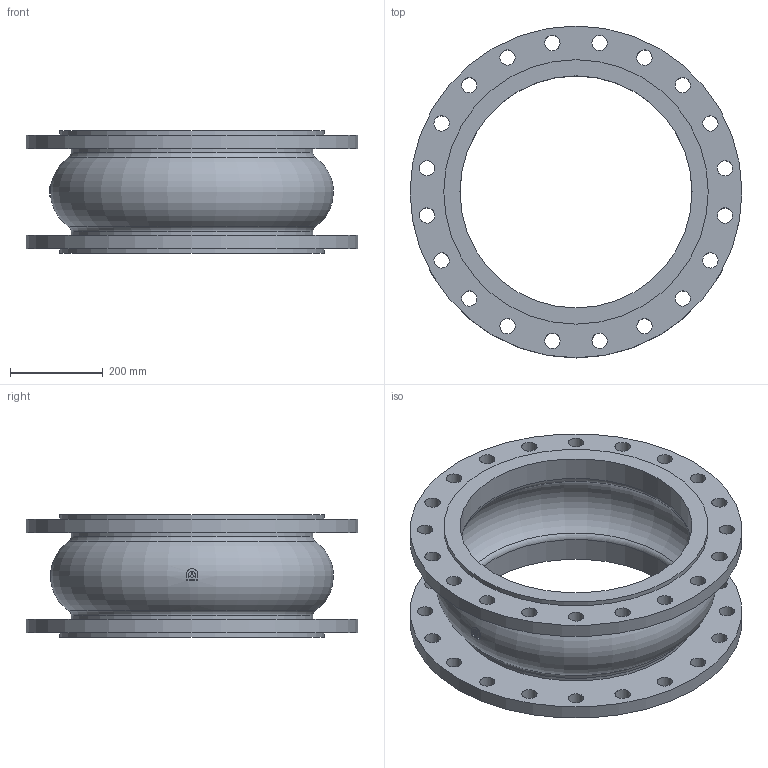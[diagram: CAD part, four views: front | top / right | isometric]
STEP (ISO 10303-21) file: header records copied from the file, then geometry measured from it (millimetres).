
FILE_DESCRIPTION(('STEP AP203'), '1');
FILE_NAME('Êîìïåíñàòîð KMS DN500 PN16', '', ('UNSPECIFIED'), ('UNSPECIFIED'), 'ASCON STEP Converter 1.6', 'ASCON Math Kernel', '');
FILE_SCHEMA(('CONFIG_CONTROL_DESIGN'));
Length unit declared in the file: millimetre
Bounding box: 715 x 715 x 265 mm (x, y, z)
Volume: 16127639.3 mm3; surface area: 1897664 mm2
Topology: 1 solids, 1 shells, 77 faces, 196 edges, 128 vertices
Faces by surface type: cylinder 55, plane 13, torus 9
Full cylindrical faces by diameter (mm): 33 x40, 500 x2, 520 x2, 570 x2, 715 x2
Entity records: 3957 total; most frequent: CARTESIAN_POINT 1432, DIRECTION 382, ORIENTED_EDGE 284, EDGE_LOOP 220, AXIS2_PLACEMENT_3D 184, EDGE_CURVE 142, VERTEX_POINT 128, FACE_BOUND 112
